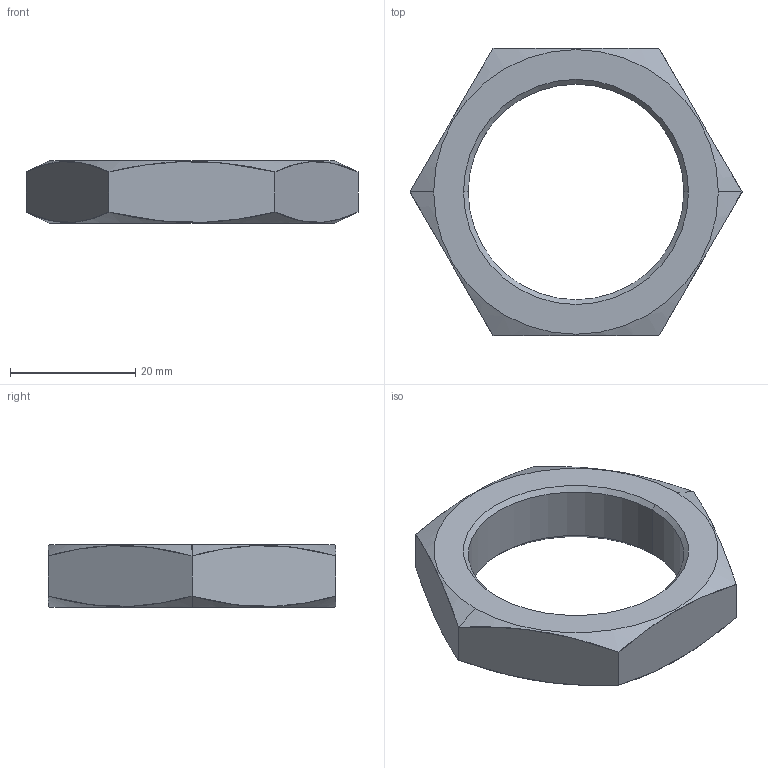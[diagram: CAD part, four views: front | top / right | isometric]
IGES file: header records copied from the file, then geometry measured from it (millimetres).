
Start section:  PTC IGES file: R412027810\r412027810.iges
Global section: file name: R412027810\r412027810.iges; native system: Creo Parametric by PTC Inc.; preprocessor: 2023092; author: GND7HC; organization: Unknown; date: 20241118.112442; units: millimetre
Bounding box: 53.12 x 46 x 10 mm (x, y, z)
Surface area: 4205.5 mm2 (no closed solid volume)
Topology: 0 solids, 0 shells, 18 faces, 80 edges, 80 vertices
Faces by surface type: revolution 10, bspline 8
